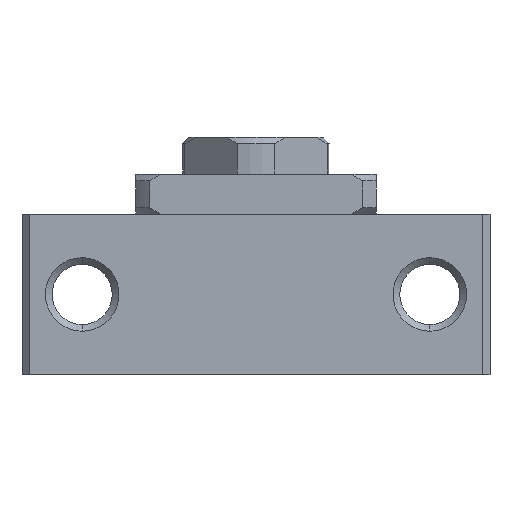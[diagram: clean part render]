
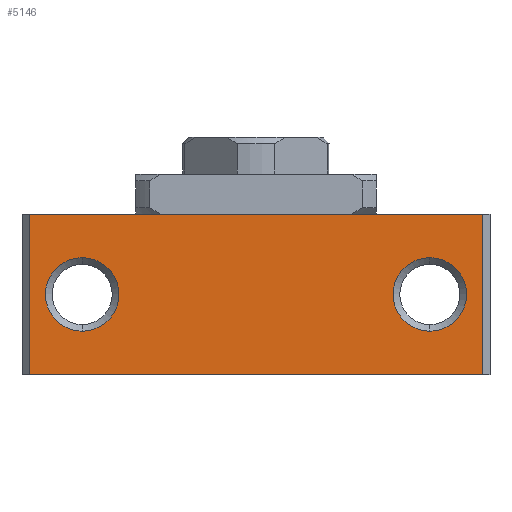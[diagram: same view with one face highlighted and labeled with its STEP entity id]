
A CAD part, front view. The second image highlights one B-rep face of the part: STEP entity #5146.
In plain terms, the highlighted planar face has unit normal (0, -1, 0).
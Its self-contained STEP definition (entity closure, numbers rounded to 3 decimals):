
#1 = VECTOR ( 'NONE', #5838, 1000. ) ;
#78 = DIRECTION ( 'NONE',  ( 0., -1., 0. ) ) ;
#104 = EDGE_LOOP ( 'NONE', ( #6111, #3714, #3904, #6341 ) ) ;
#115 = DIRECTION ( 'NONE',  ( 0., 0., -1. ) ) ;
#148 = CARTESIAN_POINT ( 'NONE',  ( -33.92, -25., -24. ) ) ;
#298 = CARTESIAN_POINT ( 'NONE',  ( -33.92, -25., 0. ) ) ;
#373 = CARTESIAN_POINT ( 'NONE',  ( -26., -25., -6.5 ) ) ;
#411 = VERTEX_POINT ( 'NONE', #4857 ) ;
#709 = VECTOR ( 'NONE', #4694, 1000. ) ;
#979 = CARTESIAN_POINT ( 'NONE',  ( -33.92, -25., 0. ) ) ;
#1081 = CARTESIAN_POINT ( 'NONE',  ( -33.92, -25., -24. ) ) ;
#1130 = EDGE_CURVE ( 'NONE', #6710, #6778, #1634, .T. ) ;
#1154 = EDGE_CURVE ( 'NONE', #6778, #6710, #1987, .T. ) ;
#1524 = VERTEX_POINT ( 'NONE', #298 ) ;
#1634 = CIRCLE ( 'NONE', #5467, 5.5 ) ;
#1646 = LINE ( 'NONE', #979, #1 ) ;
#1665 = VECTOR ( 'NONE', #5778, 1000. ) ;
#1958 = DIRECTION ( 'NONE',  ( 0., -1., 0. ) ) ;
#1987 = CIRCLE ( 'NONE', #4245, 5.5 ) ;
#2012 = VECTOR ( 'NONE', #4352, 1000. ) ;
#2290 = DIRECTION ( 'NONE',  ( 0., -1., 0. ) ) ;
#2567 = CARTESIAN_POINT ( 'NONE',  ( 26., -25., -12. ) ) ;
#2706 = CIRCLE ( 'NONE', #3833, 5.5 ) ;
#2894 = EDGE_CURVE ( 'NONE', #411, #6947, #4600, .T. ) ;
#3039 = EDGE_CURVE ( 'NONE', #5876, #411, #7287, .T. ) ;
#3061 = DIRECTION ( 'NONE',  ( 0., -1., 0. ) ) ;
#3063 = VERTEX_POINT ( 'NONE', #3791 ) ;
#3156 = CARTESIAN_POINT ( 'NONE',  ( -26., -25., -12. ) ) ;
#3204 = CARTESIAN_POINT ( 'NONE',  ( 26., -25., -12. ) ) ;
#3212 = EDGE_LOOP ( 'NONE', ( #5427, #4597 ) ) ;
#3344 = EDGE_CURVE ( 'NONE', #5235, #3063, #3463, .T. ) ;
#3371 = FACE_OUTER_BOUND ( 'NONE', #104, .T. ) ;
#3457 = CARTESIAN_POINT ( 'NONE',  ( -33.92, -25., -24. ) ) ;
#3463 = CIRCLE ( 'NONE', #3843, 5.5 ) ;
#3714 = ORIENTED_EDGE ( 'NONE', *, *, #6740, .F. ) ;
#3791 = CARTESIAN_POINT ( 'NONE',  ( 26., -25., -17.5 ) ) ;
#3833 = AXIS2_PLACEMENT_3D ( 'NONE', #3204, #7217, #4903 ) ;
#3843 = AXIS2_PLACEMENT_3D ( 'NONE', #2567, #3061, #4963 ) ;
#3904 = ORIENTED_EDGE ( 'NONE', *, *, #3039, .T. ) ;
#3975 = FACE_BOUND ( 'NONE', #3212, .T. ) ;
#4001 = CARTESIAN_POINT ( 'NONE',  ( 33.92, -25., -24. ) ) ;
#4245 = AXIS2_PLACEMENT_3D ( 'NONE', #3156, #1958, #5586 ) ;
#4352 = DIRECTION ( 'NONE',  ( 1., 0., 0. ) ) ;
#4376 = CARTESIAN_POINT ( 'NONE',  ( 33.92, -25., 0. ) ) ;
#4597 = ORIENTED_EDGE ( 'NONE', *, *, #1154, .F. ) ;
#4600 = LINE ( 'NONE', #4001, #1665 ) ;
#4694 = DIRECTION ( 'NONE',  ( 0., 0., 1. ) ) ;
#4857 = CARTESIAN_POINT ( 'NONE',  ( 33.92, -25., -24. ) ) ;
#4881 = CARTESIAN_POINT ( 'NONE',  ( -33.92, -25., -24. ) ) ;
#4903 = DIRECTION ( 'NONE',  ( 0., 0., -1. ) ) ;
#4963 = DIRECTION ( 'NONE',  ( 0., 0., -1. ) ) ;
#5146 = ADVANCED_FACE ( 'NONE', ( #3975, #5680, #3371 ), #7588, .T. ) ;
#5235 = VERTEX_POINT ( 'NONE', #6054 ) ;
#5291 = EDGE_CURVE ( 'NONE', #1524, #6947, #1646, .T. ) ;
#5427 = ORIENTED_EDGE ( 'NONE', *, *, #1130, .F. ) ;
#5467 = AXIS2_PLACEMENT_3D ( 'NONE', #6008, #78, #115 ) ;
#5586 = DIRECTION ( 'NONE',  ( 0., 0., -1. ) ) ;
#5680 = FACE_BOUND ( 'NONE', #6881, .T. ) ;
#5720 = CARTESIAN_POINT ( 'NONE',  ( -26., -25., -17.5 ) ) ;
#5778 = DIRECTION ( 'NONE',  ( 0., 0., 1. ) ) ;
#5830 = DIRECTION ( 'NONE',  ( 0., 0., -1. ) ) ;
#5838 = DIRECTION ( 'NONE',  ( 1., 0., 0. ) ) ;
#5876 = VERTEX_POINT ( 'NONE', #4881 ) ;
#6008 = CARTESIAN_POINT ( 'NONE',  ( -26., -25., -12. ) ) ;
#6054 = CARTESIAN_POINT ( 'NONE',  ( 26., -25., -6.5 ) ) ;
#6111 = ORIENTED_EDGE ( 'NONE', *, *, #5291, .F. ) ;
#6341 = ORIENTED_EDGE ( 'NONE', *, *, #2894, .T. ) ;
#6474 = AXIS2_PLACEMENT_3D ( 'NONE', #3457, #2290, #5830 ) ;
#6525 = EDGE_CURVE ( 'NONE', #3063, #5235, #2706, .T. ) ;
#6710 = VERTEX_POINT ( 'NONE', #373 ) ;
#6740 = EDGE_CURVE ( 'NONE', #5876, #1524, #7477, .T. ) ;
#6778 = VERTEX_POINT ( 'NONE', #5720 ) ;
#6881 = EDGE_LOOP ( 'NONE', ( #7452, #7462 ) ) ;
#6947 = VERTEX_POINT ( 'NONE', #4376 ) ;
#7217 = DIRECTION ( 'NONE',  ( 0., -1., 0. ) ) ;
#7287 = LINE ( 'NONE', #148, #2012 ) ;
#7452 = ORIENTED_EDGE ( 'NONE', *, *, #3344, .F. ) ;
#7462 = ORIENTED_EDGE ( 'NONE', *, *, #6525, .F. ) ;
#7477 = LINE ( 'NONE', #1081, #709 ) ;
#7588 = PLANE ( 'NONE',  #6474 ) ;
